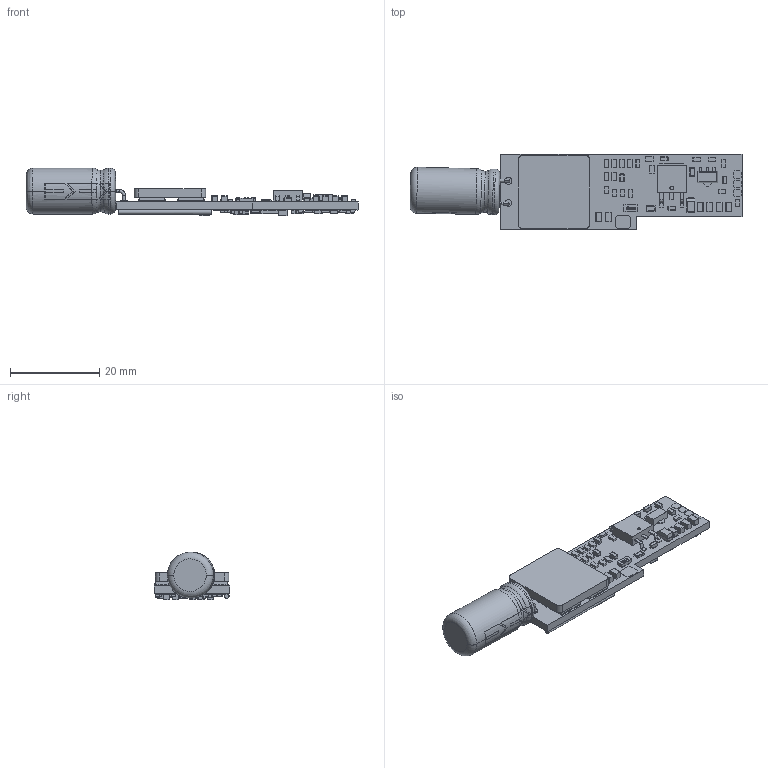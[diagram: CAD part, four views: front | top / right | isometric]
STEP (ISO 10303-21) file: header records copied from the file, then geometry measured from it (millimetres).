
FILE_DESCRIPTION (( 'STEP AP203' ), '1' );
FILE_NAME ('RD S series 25A_without heatshrink.STEP', '2026-06-30T05:09:41', ( '' ), ( '' ), 'RDSTEP 2.0', 'Reflex Drive 2026', '' );
FILE_SCHEMA (( 'CONFIG_CONTROL_DESIGN' ));
Products named in the file (1): RD S series 25A_without heatshrink
Bounding box: 74.59 x 16.92 x 10.7 mm (x, y, z)
Volume: 4145.2 mm3; surface area: 4021.9 mm2
Topology: 1 solids, 9 shells, 3222 faces, 8822 edges, 5352 vertices
Faces by surface type: plane 2036, cylinder 702, sphere 382, bspline 65, torus 37
Entity records: 106024 total; most frequent: CARTESIAN_POINT 39044, ORIENTED_EDGE 17000, DIRECTION 8740, EDGE_CURVE 8500, B_SPLINE_CURVE_WITH_KNOTS 6145, VERTEX_POINT 5352, EDGE_LOOP 3424, AXIS2_PLACEMENT_3D 3230
